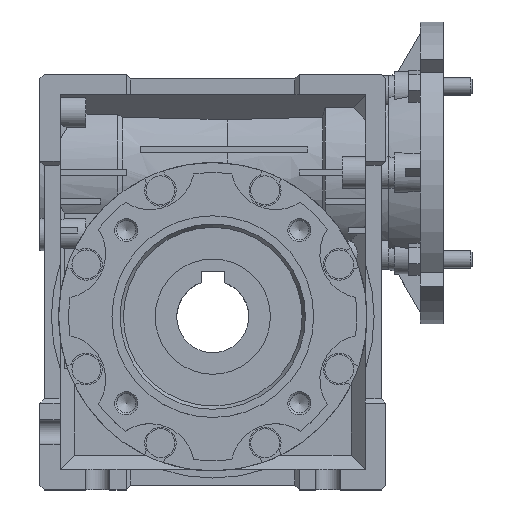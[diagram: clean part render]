
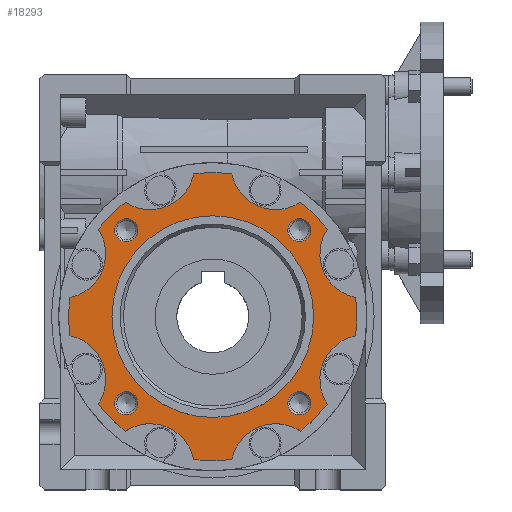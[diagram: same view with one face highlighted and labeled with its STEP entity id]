
A CAD part, top view. The second image highlights one B-rep face of the part: STEP entity #18293.
In plain terms, the highlighted planar face has unit normal (0, 0, 1) as drawn and (-1, 0, 0) by its records, which use the part's own axes.
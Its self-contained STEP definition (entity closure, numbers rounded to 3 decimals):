
#424=PLANE('',#19694);
#6518=ORIENTED_EDGE('',*,*,#11205,.F.);
#6519=ORIENTED_EDGE('',*,*,#11206,.T.);
#6520=ORIENTED_EDGE('',*,*,#11207,.F.);
#6521=ORIENTED_EDGE('',*,*,#11208,.T.);
#6522=ORIENTED_EDGE('',*,*,#11209,.F.);
#6523=ORIENTED_EDGE('',*,*,#11210,.T.);
#6524=ORIENTED_EDGE('',*,*,#11211,.F.);
#6525=ORIENTED_EDGE('',*,*,#11212,.T.);
#6526=ORIENTED_EDGE('',*,*,#11213,.F.);
#6527=ORIENTED_EDGE('',*,*,#11214,.T.);
#6528=ORIENTED_EDGE('',*,*,#11215,.F.);
#6529=ORIENTED_EDGE('',*,*,#11216,.T.);
#6530=ORIENTED_EDGE('',*,*,#11217,.F.);
#6531=ORIENTED_EDGE('',*,*,#11218,.T.);
#6532=ORIENTED_EDGE('',*,*,#11219,.F.);
#6533=ORIENTED_EDGE('',*,*,#11220,.T.);
#6534=ORIENTED_EDGE('',*,*,#11221,.T.);
#6535=ORIENTED_EDGE('',*,*,#11222,.T.);
#6536=ORIENTED_EDGE('',*,*,#11223,.T.);
#6537=ORIENTED_EDGE('',*,*,#11224,.T.);
#6538=ORIENTED_EDGE('',*,*,#11204,.T.);
#11204=EDGE_CURVE('',#13545,#13545,#14729,.T.);
#11205=EDGE_CURVE('',#13546,#13547,#14730,.T.);
#11206=EDGE_CURVE('',#13546,#13548,#14731,.T.);
#11207=EDGE_CURVE('',#13549,#13548,#14732,.T.);
#11208=EDGE_CURVE('',#13549,#13550,#14733,.T.);
#11209=EDGE_CURVE('',#13551,#13550,#14734,.T.);
#11210=EDGE_CURVE('',#13551,#13552,#14735,.T.);
#11211=EDGE_CURVE('',#13553,#13552,#14736,.T.);
#11212=EDGE_CURVE('',#13553,#13554,#14737,.T.);
#11213=EDGE_CURVE('',#13555,#13554,#14738,.T.);
#11214=EDGE_CURVE('',#13555,#13556,#14739,.T.);
#11215=EDGE_CURVE('',#13557,#13556,#14740,.T.);
#11216=EDGE_CURVE('',#13557,#13558,#14741,.T.);
#11217=EDGE_CURVE('',#13559,#13558,#14742,.T.);
#11218=EDGE_CURVE('',#13559,#13560,#14743,.T.);
#11219=EDGE_CURVE('',#13561,#13560,#14744,.T.);
#11220=EDGE_CURVE('',#13561,#13547,#14745,.T.);
#11221=EDGE_CURVE('',#13562,#13562,#14746,.T.);
#11222=EDGE_CURVE('',#13563,#13563,#14747,.T.);
#11223=EDGE_CURVE('',#13564,#13564,#14748,.T.);
#11224=EDGE_CURVE('',#13565,#13565,#14749,.T.);
#13545=VERTEX_POINT('',#29281);
#13546=VERTEX_POINT('',#29284);
#13547=VERTEX_POINT('',#29285);
#13548=VERTEX_POINT('',#29287);
#13549=VERTEX_POINT('',#29289);
#13550=VERTEX_POINT('',#29291);
#13551=VERTEX_POINT('',#29293);
#13552=VERTEX_POINT('',#29295);
#13553=VERTEX_POINT('',#29297);
#13554=VERTEX_POINT('',#29299);
#13555=VERTEX_POINT('',#29301);
#13556=VERTEX_POINT('',#29303);
#13557=VERTEX_POINT('',#29305);
#13558=VERTEX_POINT('',#29307);
#13559=VERTEX_POINT('',#29309);
#13560=VERTEX_POINT('',#29311);
#13561=VERTEX_POINT('',#29313);
#13562=VERTEX_POINT('',#29316);
#13563=VERTEX_POINT('',#29318);
#13564=VERTEX_POINT('',#29320);
#13565=VERTEX_POINT('',#29322);
#14729=CIRCLE('',#19693,35.);
#14730=CIRCLE('',#19695,50.);
#14731=CIRCLE('',#19696,15.5);
#14732=CIRCLE('',#19697,50.);
#14733=CIRCLE('',#19698,15.5);
#14734=CIRCLE('',#19699,50.);
#14735=CIRCLE('',#19700,15.5);
#14736=CIRCLE('',#19701,50.);
#14737=CIRCLE('',#19702,15.5);
#14738=CIRCLE('',#19703,50.);
#14739=CIRCLE('',#19704,15.5);
#14740=CIRCLE('',#19705,50.);
#14741=CIRCLE('',#19706,15.5);
#14742=CIRCLE('',#19707,50.);
#14743=CIRCLE('',#19708,15.5);
#14744=CIRCLE('',#19709,50.);
#14745=CIRCLE('',#19710,15.5);
#14746=CIRCLE('',#19711,4.);
#14747=CIRCLE('',#19712,4.);
#14748=CIRCLE('',#19713,4.);
#14749=CIRCLE('',#19714,4.);
#15601=EDGE_LOOP('',(#6518,#6519,#6520,#6521,#6522,#6523,#6524,#6525,#6526,
#6527,#6528,#6529,#6530,#6531,#6532,#6533));
#15602=EDGE_LOOP('',(#6534));
#15603=EDGE_LOOP('',(#6535));
#15604=EDGE_LOOP('',(#6536));
#15605=EDGE_LOOP('',(#6537));
#15606=EDGE_LOOP('',(#6538));
#16834=FACE_BOUND('',#15601,.T.);
#16835=FACE_BOUND('',#15602,.T.);
#16836=FACE_BOUND('',#15603,.T.);
#16837=FACE_BOUND('',#15604,.T.);
#16838=FACE_BOUND('',#15605,.T.);
#16839=FACE_BOUND('',#15606,.T.);
#18293=ADVANCED_FACE('',(#16834,#16835,#16836,#16837,#16838,#16839),#424,
 .F.);
#19693=AXIS2_PLACEMENT_3D('',#29280,#23110,#23111);
#19694=AXIS2_PLACEMENT_3D('',#29282,#23112,#23113);
#19695=AXIS2_PLACEMENT_3D('',#29283,#23114,#23115);
#19696=AXIS2_PLACEMENT_3D('',#29286,#23116,#23117);
#19697=AXIS2_PLACEMENT_3D('',#29288,#23118,#23119);
#19698=AXIS2_PLACEMENT_3D('',#29290,#23120,#23121);
#19699=AXIS2_PLACEMENT_3D('',#29292,#23122,#23123);
#19700=AXIS2_PLACEMENT_3D('',#29294,#23124,#23125);
#19701=AXIS2_PLACEMENT_3D('',#29296,#23126,#23127);
#19702=AXIS2_PLACEMENT_3D('',#29298,#23128,#23129);
#19703=AXIS2_PLACEMENT_3D('',#29300,#23130,#23131);
#19704=AXIS2_PLACEMENT_3D('',#29302,#23132,#23133);
#19705=AXIS2_PLACEMENT_3D('',#29304,#23134,#23135);
#19706=AXIS2_PLACEMENT_3D('',#29306,#23136,#23137);
#19707=AXIS2_PLACEMENT_3D('',#29308,#23138,#23139);
#19708=AXIS2_PLACEMENT_3D('',#29310,#23140,#23141);
#19709=AXIS2_PLACEMENT_3D('',#29312,#23142,#23143);
#19710=AXIS2_PLACEMENT_3D('',#29314,#23144,#23145);
#19711=AXIS2_PLACEMENT_3D('',#29315,#23146,#23147);
#19712=AXIS2_PLACEMENT_3D('',#29317,#23148,#23149);
#19713=AXIS2_PLACEMENT_3D('',#29319,#23150,#23151);
#19714=AXIS2_PLACEMENT_3D('',#29321,#23152,#23153);
#23110=DIRECTION('',(1.,0.,0.));
#23111=DIRECTION('',(0.,0.,-1.));
#23112=DIRECTION('',(1.,0.,0.));
#23113=DIRECTION('',(0.,0.,-1.));
#23114=DIRECTION('',(1.,0.,0.));
#23115=DIRECTION('',(0.,0.,-1.));
#23116=DIRECTION('',(1.,0.,0.));
#23117=DIRECTION('',(0.,0.,-1.));
#23118=DIRECTION('',(1.,0.,0.));
#23119=DIRECTION('',(0.,0.,-1.));
#23120=DIRECTION('',(1.,0.,0.));
#23121=DIRECTION('',(0.,0.,-1.));
#23122=DIRECTION('',(1.,0.,0.));
#23123=DIRECTION('',(0.,0.,-1.));
#23124=DIRECTION('',(1.,0.,0.));
#23125=DIRECTION('',(0.,0.,-1.));
#23126=DIRECTION('',(1.,0.,0.));
#23127=DIRECTION('',(0.,0.,-1.));
#23128=DIRECTION('',(1.,0.,0.));
#23129=DIRECTION('',(0.,0.,-1.));
#23130=DIRECTION('',(1.,0.,0.));
#23131=DIRECTION('',(0.,0.,-1.));
#23132=DIRECTION('',(1.,0.,0.));
#23133=DIRECTION('',(0.,0.,-1.));
#23134=DIRECTION('',(1.,0.,0.));
#23135=DIRECTION('',(0.,0.,-1.));
#23136=DIRECTION('',(1.,0.,0.));
#23137=DIRECTION('',(0.,0.,-1.));
#23138=DIRECTION('',(1.,0.,0.));
#23139=DIRECTION('',(0.,0.,-1.));
#23140=DIRECTION('',(1.,0.,0.));
#23141=DIRECTION('',(0.,0.,-1.));
#23142=DIRECTION('',(1.,0.,0.));
#23143=DIRECTION('',(0.,0.,-1.));
#23144=DIRECTION('',(1.,0.,0.));
#23145=DIRECTION('',(0.,0.,-1.));
#23146=DIRECTION('',(1.,0.,0.));
#23147=DIRECTION('',(0.,0.,-1.));
#23148=DIRECTION('',(1.,0.,0.));
#23149=DIRECTION('',(0.,0.,-1.));
#23150=DIRECTION('',(1.,0.,0.));
#23151=DIRECTION('',(0.,0.,-1.));
#23152=DIRECTION('',(1.,0.,0.));
#23153=DIRECTION('',(0.,0.,-1.));
#29280=CARTESIAN_POINT('',(-43.5,0.,0.));
#29281=CARTESIAN_POINT('',(-43.5,0.,-35.));
#29282=CARTESIAN_POINT('',(-43.5,35.,0.));
#29283=CARTESIAN_POINT('',(-43.5,0.,0.));
#29284=CARTESIAN_POINT('',(-43.5,49.559,-6.627));
#29285=CARTESIAN_POINT('',(-43.5,49.559,6.627));
#29286=CARTESIAN_POINT('',(-43.5,52.661,-21.813));
#29287=CARTESIAN_POINT('',(-43.5,39.729,-30.358));
#29288=CARTESIAN_POINT('',(-43.5,0.,0.));
#29289=CARTESIAN_POINT('',(-43.5,30.358,-39.729));
#29290=CARTESIAN_POINT('',(-43.5,21.813,-52.661));
#29291=CARTESIAN_POINT('',(-43.5,6.627,-49.559));
#29292=CARTESIAN_POINT('',(-43.5,0.,0.));
#29293=CARTESIAN_POINT('',(-43.5,-6.627,-49.559));
#29294=CARTESIAN_POINT('',(-43.5,-21.813,-52.661));
#29295=CARTESIAN_POINT('',(-43.5,-30.358,-39.729));
#29296=CARTESIAN_POINT('',(-43.5,0.,0.));
#29297=CARTESIAN_POINT('',(-43.5,-39.729,-30.358));
#29298=CARTESIAN_POINT('',(-43.5,-52.661,-21.813));
#29299=CARTESIAN_POINT('',(-43.5,-49.559,-6.627));
#29300=CARTESIAN_POINT('',(-43.5,0.,0.));
#29301=CARTESIAN_POINT('',(-43.5,-49.559,6.627));
#29302=CARTESIAN_POINT('',(-43.5,-52.661,21.813));
#29303=CARTESIAN_POINT('',(-43.5,-39.729,30.358));
#29304=CARTESIAN_POINT('',(-43.5,0.,0.));
#29305=CARTESIAN_POINT('',(-43.5,-30.358,39.729));
#29306=CARTESIAN_POINT('',(-43.5,-21.813,52.661));
#29307=CARTESIAN_POINT('',(-43.5,-6.627,49.559));
#29308=CARTESIAN_POINT('',(-43.5,0.,0.));
#29309=CARTESIAN_POINT('',(-43.5,6.627,49.559));
#29310=CARTESIAN_POINT('',(-43.5,21.813,52.661));
#29311=CARTESIAN_POINT('',(-43.5,30.358,39.729));
#29312=CARTESIAN_POINT('',(-43.5,0.,0.));
#29313=CARTESIAN_POINT('',(-43.5,39.729,30.358));
#29314=CARTESIAN_POINT('',(-43.5,52.661,21.813));
#29315=CARTESIAN_POINT('',(-43.5,-30.052,30.052));
#29316=CARTESIAN_POINT('',(-43.5,-30.052,26.052));
#29317=CARTESIAN_POINT('',(-43.5,-30.052,-30.052));
#29318=CARTESIAN_POINT('',(-43.5,-30.052,-34.052));
#29319=CARTESIAN_POINT('',(-43.5,30.052,-30.052));
#29320=CARTESIAN_POINT('',(-43.5,30.052,-34.052));
#29321=CARTESIAN_POINT('',(-43.5,30.052,30.052));
#29322=CARTESIAN_POINT('',(-43.5,30.052,26.052));
